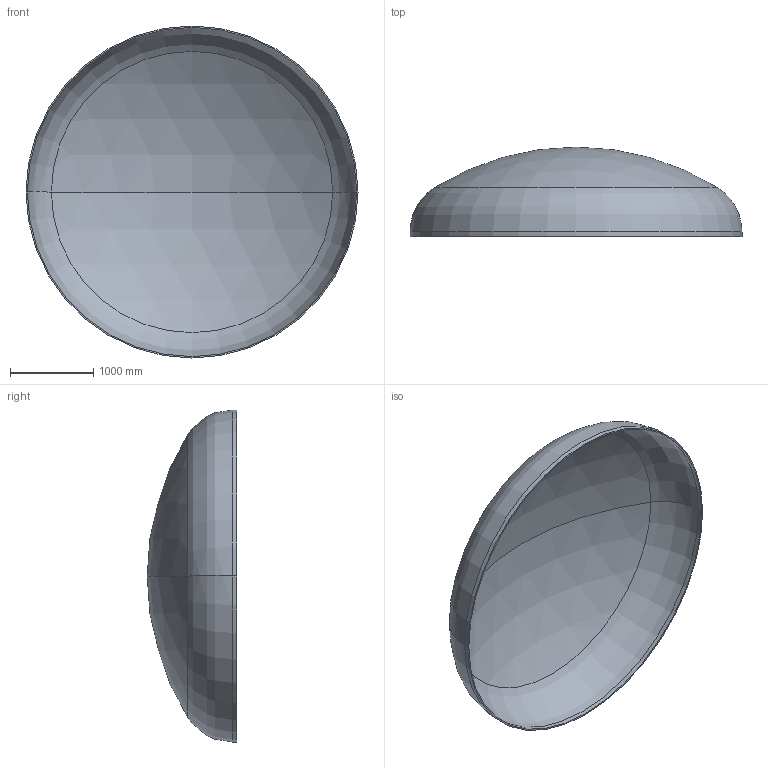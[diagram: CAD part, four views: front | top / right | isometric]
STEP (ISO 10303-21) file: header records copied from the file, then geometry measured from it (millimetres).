
FILE_DESCRIPTION (( 'STEP AP203' ), '1' );
FILE_NAME ('DIN 28013 Korbbogenform_-_Boden DIN 28013 - 4000 x 55 - I - s=16.step', '2016-07-01T22:04:51', ( '' ), ( '' ), 'SwSTEP 2.0', 'SolidWorks 2013', '' );
FILE_SCHEMA (( 'CONFIG_CONTROL_DESIGN' ));
Length unit declared in the file: millimetre
Products named in the file (1): DIN 28013 Korbbogenform_-_Boden DIN 28013 - 4000 x 55 - I - s=16
Bounding box: 4000 x 1078.27 x 4000 mm (x, y, z)
Volume: 287940087.2 mm3; surface area: 36193290.3 mm2
Topology: 1 solids, 1 shells, 13 faces, 24 edges, 14 vertices
Faces by surface type: torus 4, cylinder 4, sphere 4, plane 1
Entity records: 407 total; most frequent: DIRECTION 72, CARTESIAN_POINT 52, ORIENTED_EDGE 48, AXIS2_PLACEMENT_3D 34, EDGE_CURVE 24, CIRCLE 20, VERTEX_POINT 14, EDGE_LOOP 14
